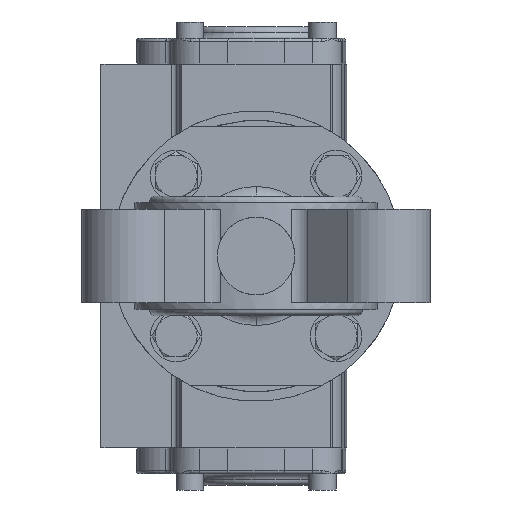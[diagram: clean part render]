
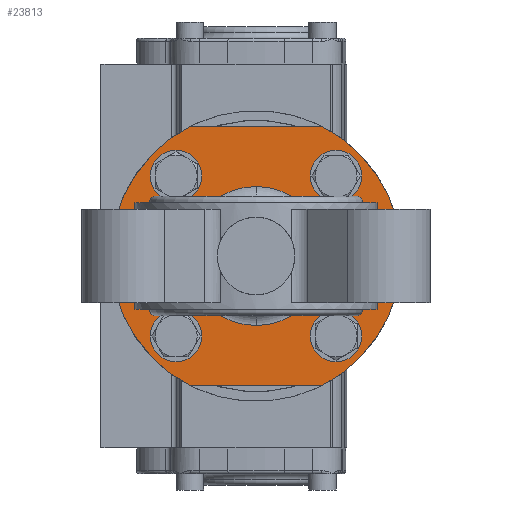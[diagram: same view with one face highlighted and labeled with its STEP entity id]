
A CAD part, front view. The second image highlights one B-rep face of the part: STEP entity #23813.
In plain terms, the highlighted planar face has unit normal (0, -1, 0).
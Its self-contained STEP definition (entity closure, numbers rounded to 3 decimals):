
#16 = AXIS2_PLACEMENT_3D ( 'NONE', #5802, #23764, #22044 ) ;
#132 = CARTESIAN_POINT ( 'NONE',  ( 24.749, 100., 24.749 ) ) ;
#223 = VERTEX_POINT ( 'NONE', #9083 ) ;
#591 = AXIS2_PLACEMENT_3D ( 'NONE', #9699, #22354, #7986 ) ;
#598 = FACE_OUTER_BOUND ( 'NONE', #22296, .T. ) ;
#879 = FACE_BOUND ( 'NONE', #24229, .T. ) ;
#970 = DIRECTION ( 'NONE',  ( 0., 0., 1. ) ) ;
#1087 = VERTEX_POINT ( 'NONE', #3815 ) ;
#1214 = ORIENTED_EDGE ( 'NONE', *, *, #13193, .F. ) ;
#1602 = VERTEX_POINT ( 'NONE', #6180 ) ;
#2932 = EDGE_LOOP ( 'NONE', ( #18481, #16339 ) ) ;
#3374 = CARTESIAN_POINT ( 'NONE',  ( 0., 100., 0. ) ) ;
#3581 = CIRCLE ( 'NONE', #12482, 4.5 ) ;
#3815 = CARTESIAN_POINT ( 'NONE',  ( 0., 100., 21.5 ) ) ;
#4074 = CARTESIAN_POINT ( 'NONE',  ( 24.749, 100., 20.249 ) ) ;
#4297 = EDGE_CURVE ( 'NONE', #18085, #5775, #9642, .T. ) ;
#4361 = CARTESIAN_POINT ( 'NONE',  ( -24.749, 100., 20.249 ) ) ;
#4375 = CARTESIAN_POINT ( 'NONE',  ( -24.749, 100., -24.749 ) ) ;
#4966 = AXIS2_PLACEMENT_3D ( 'NONE', #132, #26210, #10109 ) ;
#4998 = DIRECTION ( 'NONE',  ( 0., 0., 1. ) ) ;
#5028 = EDGE_CURVE ( 'NONE', #5775, #18085, #8423, .T. ) ;
#5112 = CIRCLE ( 'NONE', #16, 21.5 ) ;
#5268 = DIRECTION ( 'NONE',  ( 0., 1., 0. ) ) ;
#5300 = CARTESIAN_POINT ( 'NONE',  ( 0., 100., 0. ) ) ;
#5636 = ORIENTED_EDGE ( 'NONE', *, *, #20858, .F. ) ;
#5648 = VERTEX_POINT ( 'NONE', #15406 ) ;
#5775 = VERTEX_POINT ( 'NONE', #15808 ) ;
#5802 = CARTESIAN_POINT ( 'NONE',  ( 0., 100., 0. ) ) ;
#5846 = VERTEX_POINT ( 'NONE', #6789 ) ;
#6180 = CARTESIAN_POINT ( 'NONE',  ( -20.616, 100., -40. ) ) ;
#6183 = EDGE_CURVE ( 'NONE', #5846, #10495, #13495, .T. ) ;
#6306 = DIRECTION ( 'NONE',  ( 1., 0., 0. ) ) ;
#6666 = VERTEX_POINT ( 'NONE', #21421 ) ;
#6789 = CARTESIAN_POINT ( 'NONE',  ( 24.749, 100., 29.249 ) ) ;
#6834 = VERTEX_POINT ( 'NONE', #21959 ) ;
#6941 = ORIENTED_EDGE ( 'NONE', *, *, #4297, .T. ) ;
#6978 = CIRCLE ( 'NONE', #591, 45. ) ;
#7095 = DIRECTION ( 'NONE',  ( 0., 1., 0. ) ) ;
#7274 = FACE_BOUND ( 'NONE', #7611, .T. ) ;
#7315 = DIRECTION ( 'NONE',  ( 0., 1., 0. ) ) ;
#7492 = CARTESIAN_POINT ( 'NONE',  ( 24.749, 100., 24.749 ) ) ;
#7611 = EDGE_LOOP ( 'NONE', ( #24017, #18940 ) ) ;
#7758 = EDGE_CURVE ( 'NONE', #19395, #5648, #24261, .T. ) ;
#7986 = DIRECTION ( 'NONE',  ( 0., 0., 1. ) ) ;
#8229 = EDGE_LOOP ( 'NONE', ( #24549, #10458 ) ) ;
#8423 = CIRCLE ( 'NONE', #21593, 4.5 ) ;
#9083 = CARTESIAN_POINT ( 'NONE',  ( -24.749, 100., -20.249 ) ) ;
#9113 = FACE_BOUND ( 'NONE', #8229, .T. ) ;
#9220 = DIRECTION ( 'NONE',  ( 0., 1., 0. ) ) ;
#9437 = AXIS2_PLACEMENT_3D ( 'NONE', #25685, #7095, #970 ) ;
#9575 = VERTEX_POINT ( 'NONE', #16974 ) ;
#9642 = CIRCLE ( 'NONE', #14275, 4.5 ) ;
#9699 = CARTESIAN_POINT ( 'NONE',  ( 0., 100., 0. ) ) ;
#10109 = DIRECTION ( 'NONE',  ( 0., 0., 1. ) ) ;
#10139 = AXIS2_PLACEMENT_3D ( 'NONE', #7492, #17864, #19323 ) ;
#10458 = ORIENTED_EDGE ( 'NONE', *, *, #20762, .T. ) ;
#10495 = VERTEX_POINT ( 'NONE', #4074 ) ;
#10536 = CARTESIAN_POINT ( 'NONE',  ( -20.616, 100., 40. ) ) ;
#10892 = ORIENTED_EDGE ( 'NONE', *, *, #25480, .T. ) ;
#11209 = CARTESIAN_POINT ( 'NONE',  ( 24.749, 100., -24.749 ) ) ;
#11228 = FACE_BOUND ( 'NONE', #2932, .T. ) ;
#11391 = DIRECTION ( 'NONE',  ( 0., 1., 0. ) ) ;
#11907 = ORIENTED_EDGE ( 'NONE', *, *, #21042, .F. ) ;
#12482 = AXIS2_PLACEMENT_3D ( 'NONE', #25634, #11391, #25231 ) ;
#13122 = VECTOR ( 'NONE', #18315, 1000. ) ;
#13193 = EDGE_CURVE ( 'NONE', #14980, #1602, #16297, .T. ) ;
#13495 = CIRCLE ( 'NONE', #10139, 4.5 ) ;
#13568 = CARTESIAN_POINT ( 'NONE',  ( 24.749, 100., -20.249 ) ) ;
#13571 = AXIS2_PLACEMENT_3D ( 'NONE', #3374, #17083, #23073 ) ;
#13686 = CIRCLE ( 'NONE', #17128, 4.5 ) ;
#13993 = VECTOR ( 'NONE', #6306, 1000. ) ;
#14275 = AXIS2_PLACEMENT_3D ( 'NONE', #11209, #9220, #23719 ) ;
#14446 = DIRECTION ( 'NONE',  ( 0., 0., 1. ) ) ;
#14622 = LINE ( 'NONE', #10536, #13993 ) ;
#14698 = CIRCLE ( 'NONE', #4966, 4.5 ) ;
#14747 = EDGE_LOOP ( 'NONE', ( #22219, #10892 ) ) ;
#14980 = VERTEX_POINT ( 'NONE', #18195 ) ;
#15339 = PLANE ( 'NONE',  #17148 ) ;
#15406 = CARTESIAN_POINT ( 'NONE',  ( -24.749, 100., 29.249 ) ) ;
#15808 = CARTESIAN_POINT ( 'NONE',  ( 24.749, 100., -29.249 ) ) ;
#16216 = CIRCLE ( 'NONE', #9437, 4.5 ) ;
#16297 = LINE ( 'NONE', #24432, #13122 ) ;
#16339 = ORIENTED_EDGE ( 'NONE', *, *, #24543, .T. ) ;
#16974 = CARTESIAN_POINT ( 'NONE',  ( -20.616, 100., 40. ) ) ;
#17083 = DIRECTION ( 'NONE',  ( 0., 1., 0. ) ) ;
#17105 = CARTESIAN_POINT ( 'NONE',  ( 0., 100., 0. ) ) ;
#17128 = AXIS2_PLACEMENT_3D ( 'NONE', #4375, #18848, #14446 ) ;
#17148 = AXIS2_PLACEMENT_3D ( 'NONE', #17105, #23217, #23485 ) ;
#17864 = DIRECTION ( 'NONE',  ( 0., 1., 0. ) ) ;
#18085 = VERTEX_POINT ( 'NONE', #13568 ) ;
#18108 = ORIENTED_EDGE ( 'NONE', *, *, #24132, .F. ) ;
#18195 = CARTESIAN_POINT ( 'NONE',  ( 20.616, 100., -40. ) ) ;
#18315 = DIRECTION ( 'NONE',  ( -1., 0., 0. ) ) ;
#18481 = ORIENTED_EDGE ( 'NONE', *, *, #23263, .T. ) ;
#18500 = AXIS2_PLACEMENT_3D ( 'NONE', #5300, #7315, #19393 ) ;
#18848 = DIRECTION ( 'NONE',  ( 0., 1., 0. ) ) ;
#18940 = ORIENTED_EDGE ( 'NONE', *, *, #7758, .T. ) ;
#19323 = DIRECTION ( 'NONE',  ( 0., 0., 1. ) ) ;
#19346 = FACE_BOUND ( 'NONE', #14747, .T. ) ;
#19393 = DIRECTION ( 'NONE',  ( 0., 0., 1. ) ) ;
#19395 = VERTEX_POINT ( 'NONE', #4361 ) ;
#20199 = DIRECTION ( 'NONE',  ( 0., 0., 1. ) ) ;
#20762 = EDGE_CURVE ( 'NONE', #6666, #1087, #5112, .T. ) ;
#20858 = EDGE_CURVE ( 'NONE', #6834, #14980, #22128, .T. ) ;
#21042 = EDGE_CURVE ( 'NONE', #9575, #6834, #14622, .T. ) ;
#21067 = CIRCLE ( 'NONE', #18500, 21.5 ) ;
#21226 = CARTESIAN_POINT ( 'NONE',  ( 24.749, 100., -24.749 ) ) ;
#21421 = CARTESIAN_POINT ( 'NONE',  ( 0., 100., -21.5 ) ) ;
#21593 = AXIS2_PLACEMENT_3D ( 'NONE', #21226, #5268, #4998 ) ;
#21959 = CARTESIAN_POINT ( 'NONE',  ( 20.616, 100., 40. ) ) ;
#22044 = DIRECTION ( 'NONE',  ( 0., 0., 1. ) ) ;
#22128 = CIRCLE ( 'NONE', #13571, 45. ) ;
#22219 = ORIENTED_EDGE ( 'NONE', *, *, #6183, .T. ) ;
#22296 = EDGE_LOOP ( 'NONE', ( #18108, #1214, #5636, #11907 ) ) ;
#22354 = DIRECTION ( 'NONE',  ( 0., 1., 0. ) ) ;
#22606 = EDGE_CURVE ( 'NONE', #5648, #19395, #16216, .T. ) ;
#23073 = DIRECTION ( 'NONE',  ( 0., 0., 1. ) ) ;
#23217 = DIRECTION ( 'NONE',  ( 0., 1., 0. ) ) ;
#23263 = EDGE_CURVE ( 'NONE', #223, #25964, #13686, .T. ) ;
#23485 = DIRECTION ( 'NONE',  ( 0., 0., 1. ) ) ;
#23719 = DIRECTION ( 'NONE',  ( 0., 0., 1. ) ) ;
#23764 = DIRECTION ( 'NONE',  ( 0., 1., 0. ) ) ;
#23813 = ADVANCED_FACE ( 'NONE', ( #9113, #11228, #879, #19346, #7274, #598 ), #15339, .F. ) ;
#24017 = ORIENTED_EDGE ( 'NONE', *, *, #22606, .T. ) ;
#24077 = DIRECTION ( 'NONE',  ( 0., 1., 0. ) ) ;
#24132 = EDGE_CURVE ( 'NONE', #1602, #9575, #6978, .T. ) ;
#24229 = EDGE_LOOP ( 'NONE', ( #6941, #25152 ) ) ;
#24261 = CIRCLE ( 'NONE', #25953, 4.5 ) ;
#24432 = CARTESIAN_POINT ( 'NONE',  ( -20.616, 100., -40. ) ) ;
#24543 = EDGE_CURVE ( 'NONE', #25964, #223, #3581, .T. ) ;
#24549 = ORIENTED_EDGE ( 'NONE', *, *, #24849, .T. ) ;
#24605 = CARTESIAN_POINT ( 'NONE',  ( -24.749, 100., 24.749 ) ) ;
#24849 = EDGE_CURVE ( 'NONE', #1087, #6666, #21067, .T. ) ;
#24953 = CARTESIAN_POINT ( 'NONE',  ( -24.749, 100., -29.249 ) ) ;
#25152 = ORIENTED_EDGE ( 'NONE', *, *, #5028, .T. ) ;
#25231 = DIRECTION ( 'NONE',  ( 0., 0., 1. ) ) ;
#25480 = EDGE_CURVE ( 'NONE', #10495, #5846, #14698, .T. ) ;
#25634 = CARTESIAN_POINT ( 'NONE',  ( -24.749, 100., -24.749 ) ) ;
#25685 = CARTESIAN_POINT ( 'NONE',  ( -24.749, 100., 24.749 ) ) ;
#25953 = AXIS2_PLACEMENT_3D ( 'NONE', #24605, #24077, #20199 ) ;
#25964 = VERTEX_POINT ( 'NONE', #24953 ) ;
#26210 = DIRECTION ( 'NONE',  ( 0., 1., 0. ) ) ;
